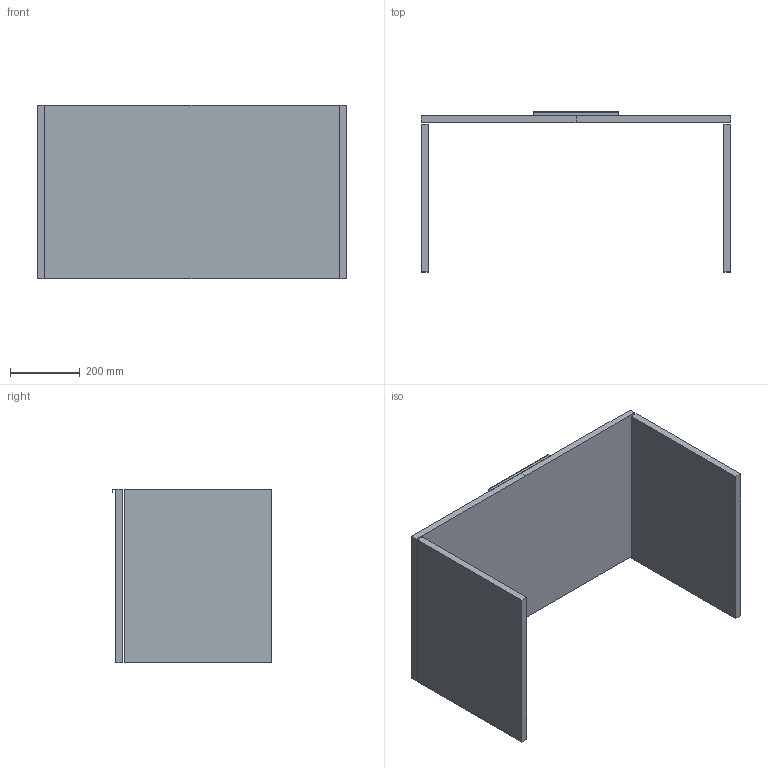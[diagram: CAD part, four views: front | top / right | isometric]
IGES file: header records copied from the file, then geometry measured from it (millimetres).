
Start section: START RECORD GO HERE.
Global section: file name: 7243.igs; native system: DASSAULT SYSTEMES CATIA V5 R19 - www.3ds.com; preprocessor: CATIA Version 5 Release 19 SP 5 ; author: gioge; organization: LAPTOP-G94B6G74; date: 20201002.171950; units: millimetre
Bounding box: 890 x 460 x 500 mm (x, y, z)
Surface area: 1879472 mm2 (no closed solid volume)
Topology: 0 solids, 0 shells, 28 faces, 120 edges, 120 vertices
Faces by surface type: plane 28
